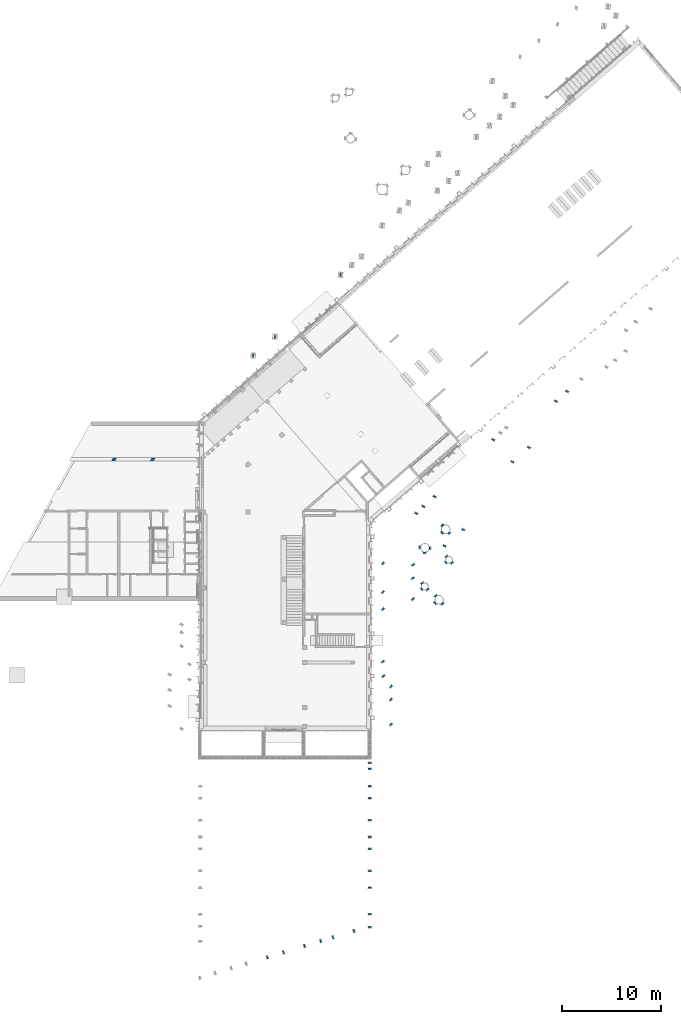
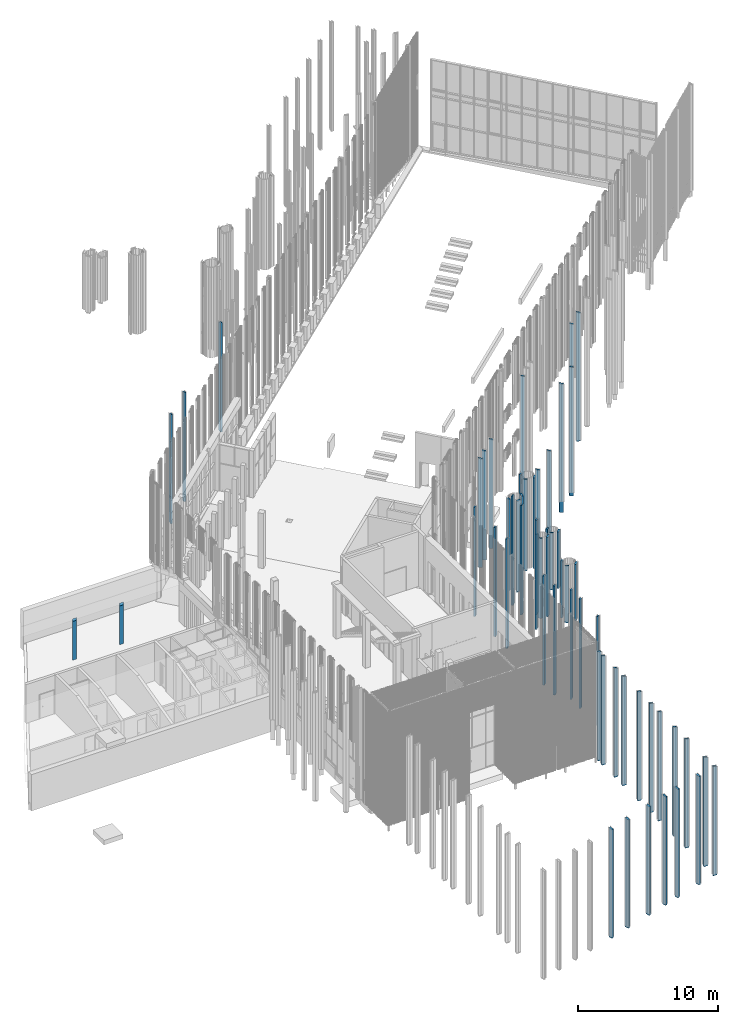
# One storey, part 3 of 390: 58 columns.
"""IFC2X3 building model written with IfcOpenShell, lengths in millimetres."""

from ifc_helpers import new_model, entity, si_unit, converted_unit, derived_unit, money_unit, direction, frame, origin_with_axes, place, context, subcontext, project, spatial, polyline, outline, extrude, faceted_brep, source, transform, mapped, material, type_object, element, save


model = new_model("IFC2X3")

# Units and contexts
model_context = context("Model", 3, precision=1e-05, world=origin_with_axes(), true_north=direction((0.0, 1.0)))
body_context = subcontext(model_context, "Body", "Model", "MODEL_VIEW")
ifc_project = project(units=[si_unit("LENGTHUNIT", "METRE", prefix="MILLI"), si_unit("AREAUNIT", "SQUARE_METRE"), si_unit("VOLUMEUNIT", "CUBIC_METRE"), converted_unit("PLANEANGLEUNIT", "DEGREE", entity("IfcPlaneAngleMeasure", 0.0174532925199), si_unit("PLANEANGLEUNIT", "RADIAN"), dimensions=[0, 0, 0, 0, 0, 0, 0]), si_unit("SOLIDANGLEUNIT", "STERADIAN"), money_unit("EUR"), converted_unit("TIMEUNIT", "Year", entity("IfcTimeMeasure", 31556926.0), si_unit("TIMEUNIT", "SECOND"), dimensions=[0, 0, 1, 0, 0, 0, 0]), si_unit("MASSUNIT", "GRAM", prefix="KILO"), si_unit("THERMODYNAMICTEMPERATUREUNIT", "DEGREE_CELSIUS"), si_unit("LUMINOUSINTENSITYUNIT", "LUMEN"), si_unit("ENERGYUNIT", "JOULE", prefix="MEGA"), derived_unit("THERMALCONDUCTANCEUNIT", [(si_unit("POWERUNIT", "WATT"), 1), (si_unit("LENGTHUNIT", "METRE"), -1), (si_unit("THERMODYNAMICTEMPERATUREUNIT", "KELVIN"), -1)]), derived_unit("SPECIFICHEATCAPACITYUNIT", [(si_unit("ENERGYUNIT", "JOULE"), 1), (si_unit("MASSUNIT", "GRAM", prefix="KILO"), -1), (si_unit("THERMODYNAMICTEMPERATUREUNIT", "KELVIN"), -1)]), derived_unit("MASSDENSITYUNIT", [(si_unit("MASSUNIT", "GRAM", prefix="KILO"), 1), (si_unit("VOLUMEUNIT", "CUBIC_METRE"), -1)])], contexts=[model_context])

# Site, building, storey
site_placement = place(None, origin_with_axes())
site = spatial("IfcSite", under=ifc_project, at=site_placement, Name="Site", CompositionType="ELEMENT")
building_placement = place(site_placement, origin_with_axes())
building = spatial("IfcBuilding", under=site, at=building_placement, Name="Building", CompositionType="ELEMENT")
storey_placement = place(building_placement, origin_with_axes())
storey = spatial("IfcBuildingStorey", under=building, at=storey_placement, Name="1 korrus", CompositionType="ELEMENT", Elevation=0.0)

# Columns
ifc_material_1 = material(Name="Betoon - Konstuktsioon")
column_type_1 = type_object("IfcColumnType", Name="Post", PredefinedType="NOTDEFINED")
for number, where, z_axis, x_axis in (
    (1, (117541.840814, 72433.3631827, 2775.23675944), (0.0, 0.0, 1.0), (1.0, 0.0, 0.0)),
    (2, (113654.355593, 72433.3631827, 2775.23675944), (0.0, 0.0, 1.0), (1.0, 0.0, 0.0)),
):
    element("IfcColumn", number, at=place(storey_placement, frame(where, z_axis=z_axis, x_axis=x_axis)), inside=storey, type_object=column_type_1, material=ifc_material_1, Name="Betoon - Konstuktsioon", ObjectType="Betoon - Konstuktsioon 3395", context=body_context, shape_type="SweptSolid", body=[
        extrude(outline(polyline([(0.0, 0.0), (343.015248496, 0.0), (509.32277653, 300.0), (166.307528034, 300.0), (0.0, 0.0)])), frame((0.0, 0.0, -3395.23675944), z_axis=(0.0, 0.0, 1.0), x_axis=(1.0, 0.0, 0.0)), (0.0, 0.0, 1.0), 3395.23675944),
    ])
ifc_material_2 = material(Name="Teras (musta värvi)")
column_type_2 = type_object("IfcColumnType", Name="Päikesevarjestuspost", PredefinedType="NOTDEFINED")
shared_shape_1 = source(origin_with_axes(), body_context, "Body", "Brep", [
    faceted_brep([(162202.026399, 119507.779568, 8995.0), (162202.026399, 119507.779568, 1000.0), (162350.908322, 119489.499166, 1000.0), (162350.908322, 119489.499166, 8995.0), (162238.587202, 119805.543413, 8914.61524227), (162238.587202, 119805.543413, 1000.0), (162387.469125, 119787.263012, 1000.0), (162387.469125, 119787.263012, 8914.61524227)], [[[0, 1, 2, 3]], [[1, 0, 4, 5]], [[1, 5, 6, 2]], [[3, 2, 6, 7]], [[4, 0, 3, 7]], [[5, 4, 7, 6]]]),
])
for number, where, z_axis, x_axis in (
    (3, (273118.060967, -92614.878241, -999.846521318), (0.0, 0.0, 1.0), (-0.0523359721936, 0.998629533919, 0.0)),
    (4, (127203.154124, -135438.272088, -999.846521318), (0.0, 0.0, 1.0), (0.669130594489, 0.743144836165, 0.0)),
    (5, (301507.981065, 191664.334104, -999.846521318), (0.0, 0.0, 1.0), (-0.998628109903, -0.0523631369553, 0.0)),
    (6, (-11160.8500633, -64221.1995942, -999.846521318), (0.0, 0.0, 1.0), (0.998629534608, 0.052335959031, 0.0)),
    (7, (-53735.0288997, 85654.6363637, -999.846521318), (0.0, 0.0, 1.0), (0.743144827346, -0.669130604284, 0.0)),
    (8, (348293.617943, 45502.7816928, -999.846521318), (0.0, 0.0, 1.0), (-0.743163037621, 0.669110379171, 0.0)),
):
    element("IfcColumn", number, at=place(storey_placement, frame(where, z_axis=z_axis, x_axis=x_axis)), inside=storey, type_object=column_type_2, material=ifc_material_2, Name="Teras (musta värvi)", ObjectType="Teras (musta värvi)", context=body_context, shape_type="MappedRepresentation", body=[
        mapped(shared_shape_1, transform((0.0, 0.0, 0.0))),
    ])
shared_shape_2 = source(origin_with_axes(), body_context, "Body", "Brep", [
    faceted_brep([(162202.026399, 119507.779568, 9545.0), (162202.026399, 119507.779568, 0.0), (162350.908322, 119489.499166, 0.0), (162350.908322, 119489.499166, 9545.0), (162238.587202, 119805.543413, 9464.61524227), (162238.587202, 119805.543413, 0.0), (162387.469125, 119787.263012, 0.0), (162387.469125, 119787.263012, 9464.61524227)], [[[0, 1, 2, 3]], [[1, 0, 4, 5]], [[1, 5, 6, 2]], [[3, 2, 6, 7]], [[4, 0, 3, 7]], [[5, 4, 7, 6]]]),
])
for number, where, z_axis, x_axis in (
    (9, (1090.55889165, 181123.662485, 0.0), (0.0, 0.0, 1.0), (0.121869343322, -0.992546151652, 0.0)),
    (10, (1090.55889165, 185023.662485, 0.0), (0.0, 0.0, 1.0), (0.121869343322, -0.992546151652, 0.0)),
    (11, (1090.55889165, 186223.662485, 0.0), (0.0, 0.0, 1.0), (0.121869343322, -0.992546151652, 0.0)),
    (12, (1090.55889165, 182823.662485, 0.0), (0.0, 0.0, 1.0), (0.121869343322, -0.992546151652, 0.0)),
    (13, (-34388.387752, -36599.4952705, 0.0), (0.0, 0.0, 1.0), (1.0, 0.0, 0.0)),
    (14, (-32197.0259335, -34694.5735034, 0.0), (0.0, 0.0, 1.0), (1.0, 0.0, 0.0)),
    (15, (-25595.48661, -28477.378131, 0.0), (0.0, 0.0, 1.0), (1.0, 0.0, 0.0)),
    (16, (-60428.8672127, 71999.3768693, 0.0), (0.0, 0.0, 1.0), (0.774944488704, -0.632029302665, 0.0)),
    (17, (-57390.1597736, 71854.8490542, 0.0), (0.0, 0.0, 1.0), (0.774944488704, -0.632029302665, 0.0)),
    (18, (-57428.8672127, 70499.3768693, 0.0), (0.0, 0.0, 1.0), (0.774944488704, -0.632029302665, 0.0)),
    (19, (-60428.8672127, 69099.3768693, 0.0), (0.0, 0.0, 1.0), (0.774944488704, -0.632029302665, 0.0)),
    (20, (-57428.8672127, 68399.3768693, 0.0), (0.0, 0.0, 1.0), (0.774944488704, -0.632029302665, 0.0)),
    (21, (-60428.8672127, 67399.3768693, 0.0), (0.0, 0.0, 1.0), (0.774944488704, -0.632029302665, 0.0)),
    (22, (1090.55889165, 188583.662485, 0.0), (0.0, 0.0, 1.0), (0.121869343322, -0.992546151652, 0.0)),
    (23, (234647.077075, 199266.021296, 0.0), (0.0, 0.0, 1.0), (-0.914362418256, -0.404896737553, 0.0)),
    (24, (233018.733353, 198771.768927, 0.0), (0.0, 0.0, 1.0), (-0.914362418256, -0.404896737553, 0.0)),
    (25, (1090.55889165, 187983.662485, 0.0), (0.0, 0.0, 1.0), (0.121869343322, -0.992546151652, 0.0)),
    (26, (230911.465006, 198132.148213, 0.0), (0.0, 0.0, 1.0), (-0.914362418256, -0.404896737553, 0.0)),
    (27, (237996.744742, 200282.74839, 0.0), (0.0, 0.0, 1.0), (-0.914362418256, -0.404896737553, 0.0)),
    (28, (235889.476396, 199643.127677, 0.0), (0.0, 0.0, 1.0), (-0.914362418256, -0.404896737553, 0.0)),
    (29, (229283.121284, 197637.895844, 0.0), (0.0, 0.0, 1.0), (-0.914362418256, -0.404896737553, 0.0)),
    (30, (1090.55889436, 172058.346073, 0.0), (0.0, 0.0, 1.0), (0.121869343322, -0.992546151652, 0.0)),
    (31, (1090.55889165, 173373.281233, 0.0), (0.0, 0.0, 1.0), (0.121869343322, -0.992546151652, 0.0)),
    (32, (1090.55889165, 176023.662485, 0.0), (0.0, 0.0, 1.0), (0.121869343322, -0.992546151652, 0.0)),
    (33, (1090.55889165, 177723.662485, 0.0), (0.0, 0.0, 1.0), (0.121869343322, -0.992546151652, 0.0)),
    (34, (1090.55889165, 179923.662485, 0.0), (0.0, 0.0, 1.0), (0.121869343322, -0.992546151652, 0.0)),
    (35, (-59628.8672127, 55800.8174511, 0.0), (0.0, 0.0, 1.0), (0.774944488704, -0.632029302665, 0.0)),
    (36, (-59628.8672127, 58300.8174511, 0.0), (0.0, 0.0, 1.0), (0.774944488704, -0.632029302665, 0.0)),
    (37, (-59628.8672127, 59600.8174511, 0.0), (0.0, 0.0, 1.0), (0.774944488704, -0.632029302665, 0.0)),
    (38, (-60390.1597736, 60656.289636, 0.0), (0.0, 0.0, 1.0), (0.774944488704, -0.632029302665, 0.0)),
    (39, (-60428.8672127, 62100.8174511, 0.0), (0.0, 0.0, 1.0), (0.774944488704, -0.632029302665, 0.0)),
    (40, (90231.2612486, 257328.606473, 0.0), (0.0, 0.0, 1.0), (-0.342020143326, -0.939692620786, 0.0)),
    (41, (87383.30896, 260604.80081, 0.0), (0.0, 0.0, 1.0), (-0.342020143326, -0.939692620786, 0.0)),
    (42, (88099.3111011, 261305.387655, 0.0), (0.0, 0.0, 1.0), (-0.342020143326, -0.939692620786, 0.0)),
    (43, (89231.3754714, 262289.476198, 0.0), (0.0, 0.0, 1.0), (-0.342020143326, -0.939692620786, 0.0)),
    (44, (92117.8459079, 258968.589497, 0.0), (0.0, 0.0, 1.0), (-0.342020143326, -0.939692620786, 0.0)),
):
    element("IfcColumn", number, at=place(storey_placement, frame(where, z_axis=z_axis, x_axis=x_axis)), inside=storey, type_object=column_type_2, material=ifc_material_2, Name="Teras (musta värvi)", ObjectType="Teras (musta värvi)", context=body_context, shape_type="MappedRepresentation", body=[
        mapped(shared_shape_2, transform((0.0, 0.0, 0.0))),
    ])
shared_shape_3 = source(origin_with_axes(), body_context, "Body", "Brep", [
    faceted_brep([(162202.026399, 119507.779568, 5995.0), (162202.026399, 119507.779568, 1000.0), (162350.908322, 119489.499166, 1000.0), (162350.908322, 119489.499166, 5995.0), (162238.587202, 119805.543413, 5914.61524227), (162238.587202, 119805.543413, 1000.0), (162387.469125, 119787.263012, 1000.0), (162387.469125, 119787.263012, 5914.61524227)], [[[0, 1, 2, 3]], [[1, 0, 4, 5]], [[1, 5, 6, 2]], [[3, 2, 6, 7]], [[4, 0, 3, 7]], [[5, 4, 7, 6]]]),
])
for number, where, z_axis, x_axis in (
    (45, (-54407.0634317, 78560.123857, -999.846521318), (0.0, 0.0, 1.0), (0.743144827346, -0.669130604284, 0.0)),
    (46, (126531.119592, -142532.784595, -999.846521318), (0.0, 0.0, 1.0), (0.669130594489, 0.743144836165, 0.0)),
    (47, (347621.583411, 38408.2691861, -999.846521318), (0.0, 0.0, 1.0), (-0.743163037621, 0.669110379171, 0.0)),
):
    element("IfcColumn", number, at=place(storey_placement, frame(where, z_axis=z_axis, x_axis=x_axis)), inside=storey, type_object=column_type_2, material=ifc_material_2, Name="Teras (musta värvi)", ObjectType="Teras (musta värvi)", context=body_context, shape_type="MappedRepresentation", body=[
        mapped(shared_shape_3, transform((0.0, 0.0, 0.0))),
    ])
shared_shape_4 = source(origin_with_axes(), body_context, "Body", "Brep", [
    faceted_brep([(162202.026399, 119507.779568, 9545.0), (162202.026399, 119507.779568, -1715.0), (162350.908322, 119489.499166, -1715.0), (162350.908322, 119489.499166, 9545.0), (162238.587202, 119805.543413, 9464.61524227), (162238.587202, 119805.543413, -1715.0), (162387.469125, 119787.263012, -1715.0), (162387.469125, 119787.263012, 9464.61524227)], [[[0, 1, 2, 3]], [[1, 0, 4, 5]], [[1, 5, 6, 2]], [[3, 2, 6, 7]], [[4, 0, 3, 7]], [[5, 4, 7, 6]]]),
])
for number, where, z_axis, x_axis in (
    (48, (102559.387094, 272869.655171, 0.0), (0.0, 0.0, 1.0), (-0.342020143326, -0.939692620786, 0.0)),
    (49, (97060.1416061, 265782.38628, 0.0), (0.0, 0.0, 1.0), (-0.342020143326, -0.939692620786, 0.0)),
    (50, (98720.5026881, 267225.716138, 0.0), (0.0, 0.0, 1.0), (-0.342020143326, -0.939692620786, 0.0)),
    (51, (95130.6719534, 268001.987211, 0.0), (0.0, 0.0, 1.0), (-0.342020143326, -0.939692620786, 0.0)),
    (52, (101427.322723, 271885.566627, 0.0), (0.0, 0.0, 1.0), (-0.342020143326, -0.939692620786, 0.0)),
):
    element("IfcColumn", number, at=place(storey_placement, frame(where, z_axis=z_axis, x_axis=x_axis)), inside=storey, type_object=column_type_2, material=ifc_material_2, Name="Teras (musta värvi)", ObjectType="Teras (musta värvi)", context=body_context, shape_type="MappedRepresentation", body=[
        mapped(shared_shape_4, transform((0.0, 0.0, 0.0))),
    ])
shared_shape_5 = source(origin_with_axes(), body_context, "Body", "Brep", [
    faceted_brep([(162202.026399, 119507.779568, 5995.0), (162202.026399, 119507.779568, 1000.0), (162350.908322, 119489.499166, 1000.0), (162350.908322, 119489.499166, 5995.0), (162238.587202, 119805.543413, 5914.61524227), (162238.587202, 119805.543413, 1000.0), (162387.469125, 119787.263012, 1000.0), (162387.469125, 119787.263012, 5914.61524227)], [[[0, 1, 2, 3]], [[1, 0, 4, 5]], [[1, 5, 6, 2]], [[3, 2, 6, 7]], [[4, 0, 3, 7]], [[5, 4, 7, 6]]]),
])
for number, where, z_axis, x_axis in (
    (53, (127615.234357, -138432.031126, -999.846521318), (0.0, 0.0, 1.0), (0.669130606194, 0.743144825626, 0.0)),
    (54, (-53330.2128936, 82516.8139881, -999.846521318), (0.0, 0.0, 1.0), (0.74314482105, -0.669130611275, 0.0)),
    (55, (348564.078244, 42513.4177457, -999.846521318), (0.0, 0.0, 1.0), (-0.743144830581, 0.669130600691, 0.0)),
):
    element("IfcColumn", number, at=place(storey_placement, frame(where, z_axis=z_axis, x_axis=x_axis)), inside=storey, type_object=column_type_2, material=ifc_material_2, Name="Teras (musta värvi)", ObjectType="Teras (musta värvi)", context=body_context, shape_type="MappedRepresentation", body=[
        mapped(shared_shape_5, transform((0.0, 0.0, 0.0))),
    ])
shared_shape_6 = source(origin_with_axes(), body_context, "Body", "Brep", [
    faceted_brep([(162202.026399, 119507.779568, 7995.0), (162202.026399, 119507.779568, 1000.0), (162350.908322, 119489.499166, 1000.0), (162350.908322, 119489.499166, 7995.0), (162238.587202, 119805.543413, 7914.61524227), (162238.587202, 119805.543413, 1000.0), (162387.469125, 119787.263012, 1000.0), (162387.469125, 119787.263012, 7914.61524227)], [[[0, 1, 2, 3]], [[1, 0, 4, 5]], [[1, 5, 6, 2]], [[3, 2, 6, 7]], [[4, 0, 3, 7]], [[5, 4, 7, 6]]]),
])
for number, where, z_axis, x_axis in (
    (56, (-55769.864261, 79831.9808783, -999.846521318), (0.0, 0.0, 1.0), (0.743144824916, -0.669130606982, 0.0)),
    (57, (346124.426754, 39828.5833804, -999.846521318), (0.0, 0.0, 1.0), (-0.743144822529, 0.669130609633, 0.0)),
    (58, (125175.584359, -141116.8632, -999.846521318), (0.0, 0.0, 1.0), (0.669130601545, 0.743144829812, 0.0)),
):
    element("IfcColumn", number, at=place(storey_placement, frame(where, z_axis=z_axis, x_axis=x_axis)), inside=storey, type_object=column_type_2, material=ifc_material_2, Name="Teras (musta värvi)", ObjectType="Teras (musta värvi)", context=body_context, shape_type="MappedRepresentation", body=[
        mapped(shared_shape_6, transform((0.0, 0.0, 0.0))),
    ])

save(model, "model.ifc")
